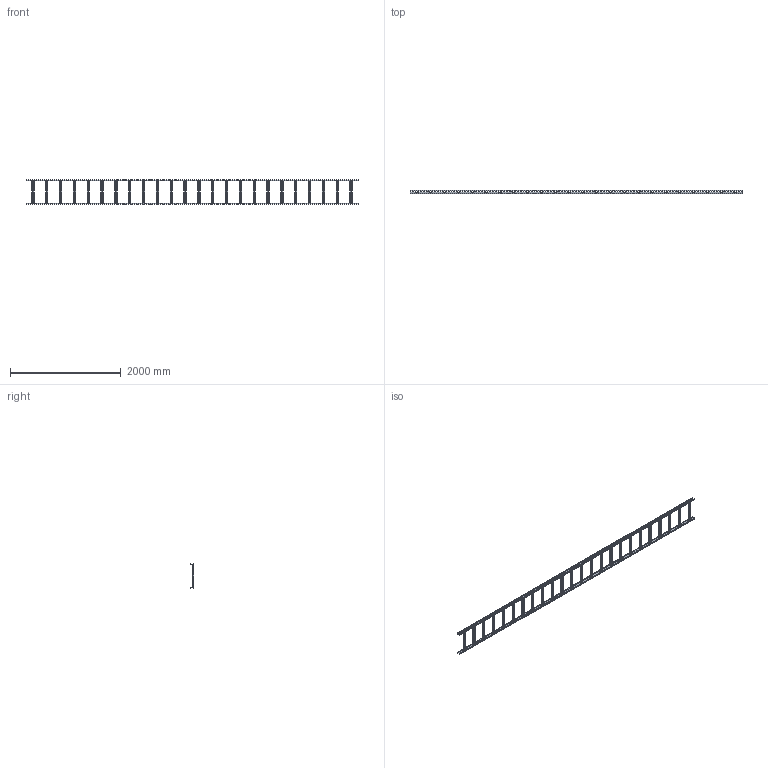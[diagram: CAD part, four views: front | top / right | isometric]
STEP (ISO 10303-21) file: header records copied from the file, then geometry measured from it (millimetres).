
FILE_DESCRIPTION(/* description */ (''),/* implementation_level */ '2;1');
FILE_NAME(/* name */ 'D:\Inventor projects\Biblioteka 3D\STP\WP 60-40.stp',/* time_stamp */ '2021-06-18T10:21:06+02:00',/* author */ ('psynowiec'),/* organization */ (''),/* preprocessor_version */ 'ST-DEVELOPER v16.13',/* originating_system */ 'Autodesk Inventor 2018',/* authorisation */ '');
FILE_SCHEMA (('AUTOMOTIVE_DESIGN { 1 0 10303 214 3 1 1 }'));
Products named in the file (1): WP 60-40
Bounding box: 6000 x 60 x 450.03 mm (x, y, z)
Volume: 3466724.5 mm3; surface area: 4755675 mm2
Topology: 26 solids, 26 shells, 5014 faces, 15830 edges, 10148 vertices
Faces by surface type: plane 3660, cylinder 1354
Full cylindrical faces by diameter (mm): 7 x42
Entity records: 184710 total; most frequent: CARTESIAN_POINT 42519, ORIENTED_EDGE 31576, DIRECTION 28334, EDGE_CURVE 15788, VERTEX_POINT 10148, LINE 10008, VECTOR 10008, AXIS2_PLACEMENT_3D 9163
